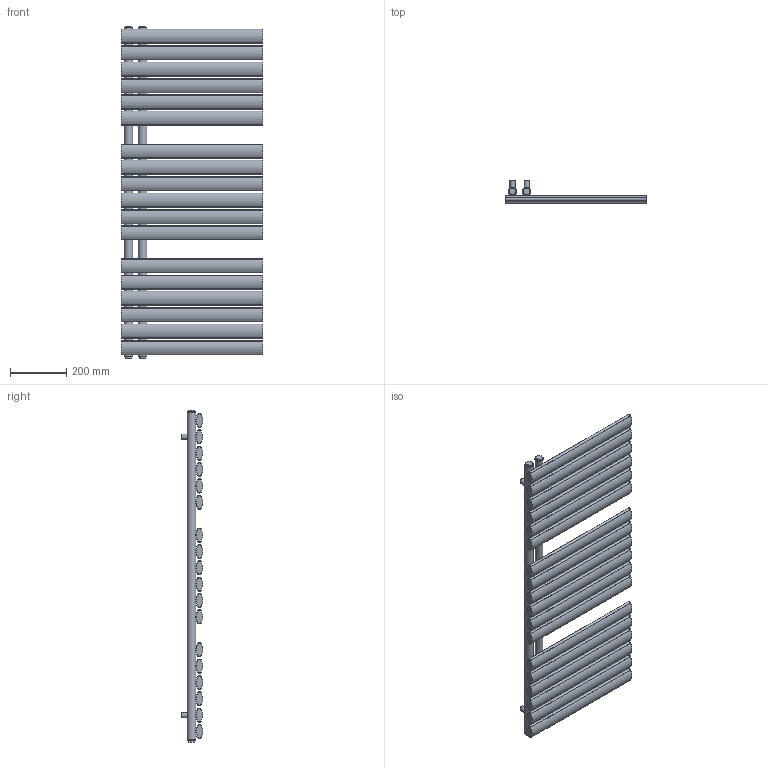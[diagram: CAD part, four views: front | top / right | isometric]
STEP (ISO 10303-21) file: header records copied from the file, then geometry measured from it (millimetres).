
FILE_DESCRIPTION(/* description */ (''),/* implementation_level */ '2;1');
FILE_NAME(/* name */ 'C:\Grzejniki\13DLUXRAD\łazienkowe\FLAG BIS\FLAG BIS 1164x500.iam.stp',/* time_stamp */ '2016-06-28T17:34:32+02:00',/* author */ ('m.szydziak'),/* organization */ (''),/* preprocessor_version */ 'ST-DEVELOPER v16.5',/* originating_system */ 'Autodesk Inventor 2017',/* authorisation */ '');
FILE_SCHEMA (('AUTOMOTIVE_DESIGN { 1 0 10303 214 3 1 1 }'));
Length unit declared in the file: millimetre
Products named in the file (6): FLAG BIS 1164x500; fi30x1,5x1164v2; 50x25x1,2x500E; uchwyt stały; zaślepka fi30 G0,5inch; korek
Assembly tree (32 placements, depth 2):
  FLAG BIS 1164x500
    fi30x1,5x1164v2  x2
    50x25x1,2x500E  x18
    uchwyt stały  x4
    zaślepka fi30 G0,5inch  x4
    korek  x4
Bounding box: 500 x 76.86 x 1176 mm (x, y, z)
Volume: 1625242.3 mm3; surface area: 2594184 mm2
Topology: 32 solids, 32 shells, 388 faces, 1012 edges, 724 vertices
Faces by surface type: cylinder 240, plane 148
Full cylindrical faces by diameter (mm): 5 x36, 6 x36, 15 x4, 18 x4, 18.631 x4, 24 x4, 27 x6, 30 x2
Entity records: 3460 total; most frequent: CARTESIAN_POINT 1703, DIRECTION 308, ORIENTED_EDGE 266, AXIS2_PLACEMENT_3D 138, EDGE_CURVE 133, EDGE_LOOP 132, VERTEX_POINT 113, FACE_BOUND 73
